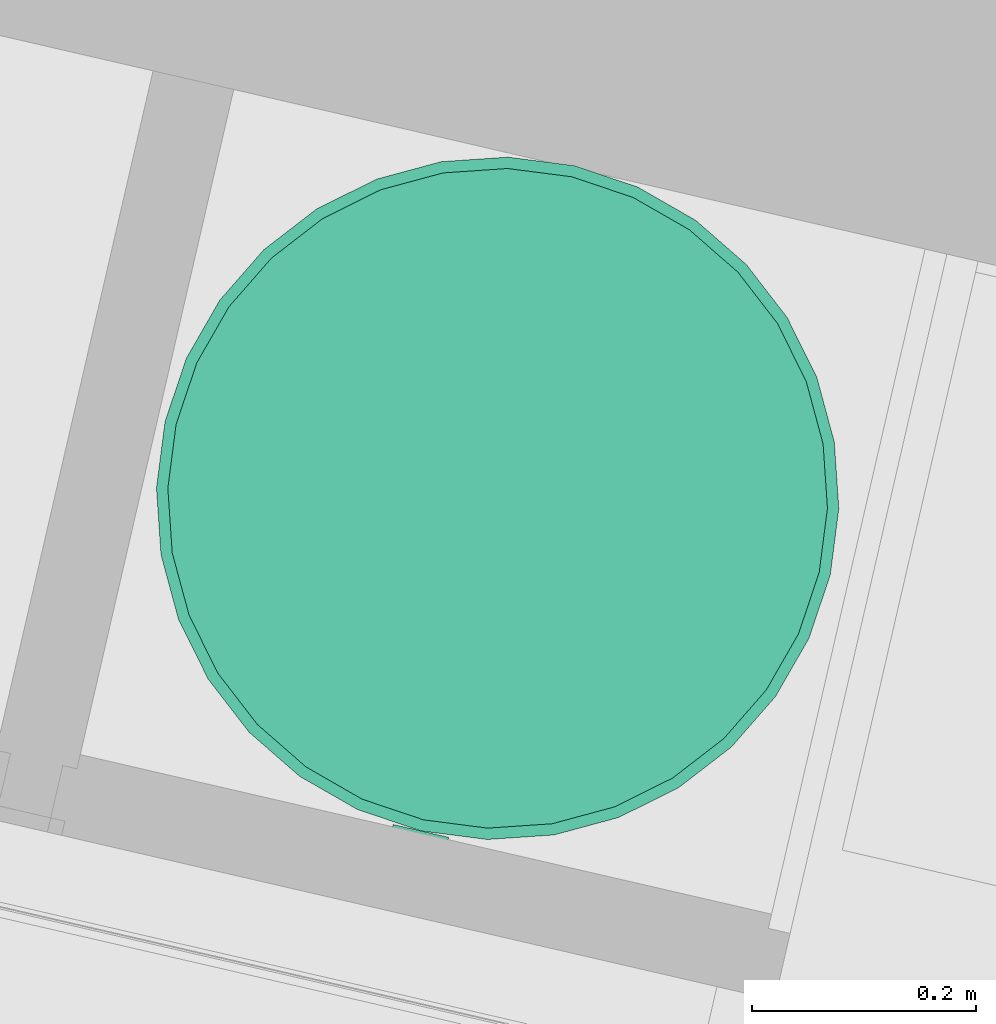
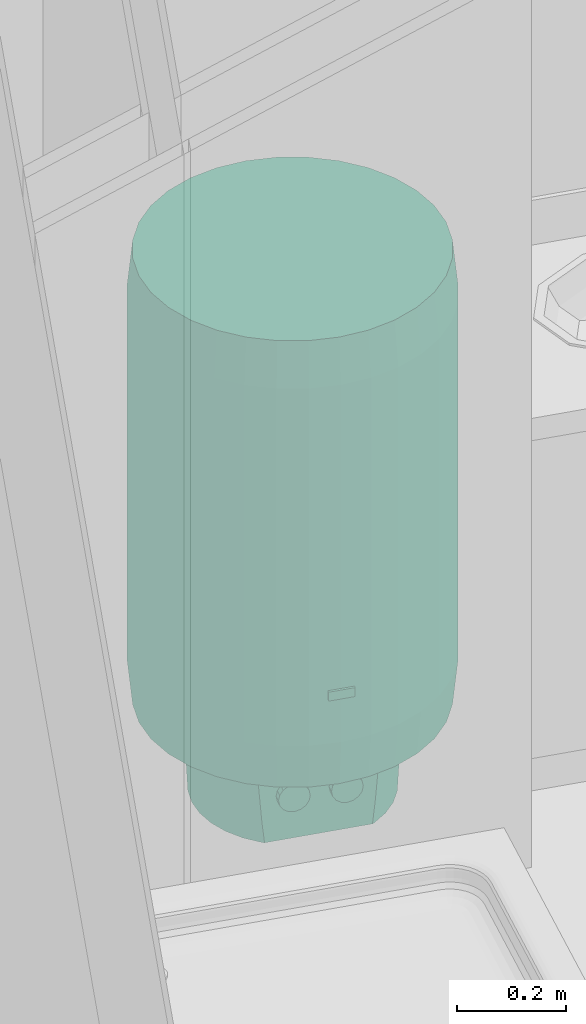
# One storey, part 78 of 91: 1 energy conversion device.
"""IFC2X3 building model written with IfcOpenShell, lengths in metres."""

import ifcopenshell
import ifcopenshell.guid

model = None  # the IFC model being written
_history = None  # IfcOwnerHistory: only IFC2X3 demands one
_inside = {}  # id of a spatial element -> (the spatial element, [elements in it])
_under = {}  # id of a project, library or spatial element -> (it, [spatial elements below it])
_declared = {}  # id of a project -> (the project, [libraries it declares])
_typed = {}  # id of a type object -> (the type object, [elements of that type])
_made_of = {}  # id of a material, layer set ... -> (it, [elements and type objects made of it])


def new_model(schema):
    """Start an empty IFC model of exactly this schema.

    Asked for "IFC4X3", IfcOpenShell would pick the latest addendum, in which some entities
    have other attributes; the version numbers below select the first issue.
    IFC2X3 requires an IfcOwnerHistory on every rooted entity: one is made here for all.
    """
    global model, _history
    if schema == "IFC4X3":
        model = ifcopenshell.file(schema_version=(4, 3, 0, 0))
    else:
        model = ifcopenshell.file(schema=schema)
    _inside.clear()
    _under.clear()
    _declared.clear()
    _typed.clear()
    _made_of.clear()
    _history = None
    if model.schema == "IFC2X3":
        org = make("IfcOrganization", Name="unknown")
        user = make(
            "IfcPersonAndOrganization",
            ThePerson=make("IfcPerson", FamilyName="unknown"),
            TheOrganization=org,
        )
        app = make(
            "IfcApplication",
            ApplicationDeveloper=org,
            Version="unknown",
            ApplicationFullName="unknown",
            ApplicationIdentifier="unknown",
        )
        _history = make(
            "IfcOwnerHistory",
            OwningUser=user,
            OwningApplication=app,
            ChangeAction="ADDED",
            CreationDate=0,
        )
    return model


def make(cls, **values):
    """One entity of the class cls with the attributes given. An attribute that is None is left unset."""
    return model.create_entity(
        cls, **{name: value for name, value in values.items() if value is not None}
    )


def entity(cls, *values):
    """Any entity or typed value of the class cls, its attributes in the order of the schema. None: left unset."""
    e = model.create_entity(cls)
    for i, value in enumerate(values):
        if value is not None:
            e[i] = value
    return e


def rooted(cls, **values):
    """An entity with a GlobalId (a new one), such as an element, a storey or a relation."""
    return make(cls, GlobalId=ifcopenshell.guid.new(), OwnerHistory=_history, **values)


def si_unit(unit_type, name, prefix=None):
    """IfcSIUnit, for example si_unit("LENGTHUNIT", "METRE", prefix="MILLI")."""
    return make("IfcSIUnit", UnitType=unit_type, Prefix=prefix, Name=name)


def converted_unit(unit_type, name, factor, base, dimensions=None, offset=None):
    """IfcConversionBasedUnit, such as the inch: factor (a typed value) times the base unit."""
    return make(
        "IfcConversionBasedUnit"
        if offset is None
        else "IfcConversionBasedUnitWithOffset",
        ConversionOffset=offset,
        Dimensions=None
        if dimensions is None
        else entity("IfcDimensionalExponents", *dimensions),
        UnitType=unit_type,
        Name=name,
        ConversionFactor=make(
            "IfcMeasureWithUnit", ValueComponent=factor, UnitComponent=base
        ),
    )


def derived_unit(unit_type, elements):
    """IfcDerivedUnit: a product of units, each with its exponent."""
    return make(
        "IfcDerivedUnit",
        Elements=[
            make("IfcDerivedUnitElement", Unit=unit, Exponent=power)
            for unit, power in elements
        ],
        UnitType=unit_type,
    )


def money_unit(currency):
    """IfcMonetaryUnit."""
    return make("IfcMonetaryUnit", Currency=currency)


def assignment(units):
    """IfcUnitAssignment: the units of a project."""
    return None if units is None else make("IfcUnitAssignment", Units=units)


def point(xyz):
    """IfcCartesianPoint."""
    return None if xyz is None else make("IfcCartesianPoint", Coordinates=xyz)


def direction(xyz):
    """IfcDirection."""
    return None if xyz is None else make("IfcDirection", DirectionRatios=xyz)


def frame(location, z_axis=None, x_axis=None):
    """IfcAxis2Placement3D, a coordinate frame: its origin and axes. An axis left out is left unset."""
    return make(
        "IfcAxis2Placement3D",
        Location=point(location),
        Axis=direction(z_axis),
        RefDirection=direction(x_axis),
    )


def origin_with_axes():
    """The frame at (0, 0, 0) with the z axis (0, 0, 1) and the x axis (1, 0, 0) written out."""
    return frame((0.0, 0.0, 0.0), z_axis=(0.0, 0.0, 1.0), x_axis=(1.0, 0.0, 0.0))


def place(relative_to, where):
    """IfcLocalPlacement: puts the frame where relative to a parent placement (None: the world)."""
    return make(
        "IfcLocalPlacement", PlacementRelTo=relative_to, RelativePlacement=where
    )


def context(
    kind, dimensions, precision=None, world=None, true_north=None, identifier=None
):
    """IfcGeometricRepresentationContext, for example the 3D "Model" context."""
    return make(
        "IfcGeometricRepresentationContext",
        ContextIdentifier=identifier,
        ContextType=kind,
        CoordinateSpaceDimension=dimensions,
        Precision=precision,
        WorldCoordinateSystem=world,
        TrueNorth=true_north,
    )


def subcontext(parent, identifier, kind, view, scale=None):
    """IfcGeometricRepresentationSubContext, for example "Body" below "Model"."""
    return make(
        "IfcGeometricRepresentationSubContext",
        ContextIdentifier=identifier,
        ContextType=kind,
        ParentContext=parent,
        TargetScale=scale,
        TargetView=view,
    )


def project(units=None, contexts=None):
    """IfcProject with its units and contexts."""
    return rooted(
        "IfcProject",
        Name="project",
        RepresentationContexts=contexts,
        UnitsInContext=assignment(units),
    )


def spatial(cls, under=None, at=None, **own):
    """A site, building, storey or space (cls), placed at a placement, below another one or the project."""
    s = rooted(cls, ObjectPlacement=at, **own)
    if under is not None:
        _under.setdefault(under.id(), (under, []))[1].append(s)
    return s


def faces_of(points, faces, orient=None, outer=None):
    """IfcFace entities. A face is a list of loops; a loop is a list of indices into points, from 0.

    orient and outer hold one flag for each loop. By default every Orientation is true, the
    first loop of a face is its IfcFaceOuterBound and the others are IfcFaceBound.
    """
    made = []
    for i, loops in enumerate(faces):
        bounds = []
        for j, loop in enumerate(loops):
            is_outer = j == 0 if outer is None else outer[i][j]
            bounds.append(
                make(
                    "IfcFaceOuterBound" if is_outer else "IfcFaceBound",
                    Bound=make("IfcPolyLoop", Polygon=[points[k] for k in loop]),
                    Orientation=True if orient is None else orient[i][j],
                )
            )
        made.append(make("IfcFace", Bounds=bounds))
    return made


def faceted_brep(points, faces, orient=None, outer=None, voids=None):
    """IfcFacetedBrep: a solid bounded by flat faces; with voids (closed shells), ...WithVoids."""
    shared = [point(p) for p in points]
    hull = make("IfcClosedShell", CfsFaces=faces_of(shared, faces, orient, outer))
    if voids is None:
        return make("IfcFacetedBrep", Outer=hull)
    return make(
        "IfcFacetedBrepWithVoids",
        Outer=hull,
        Voids=[
            make(cls, CfsFaces=faces_of(shared, fs, o, b)) for cls, fs, o, b in voids
        ],
    )


def shape(context_of_items, identifier, shape_type, items):
    """IfcShapeRepresentation: the items that make up one representation, for example the "Body"."""
    return make(
        "IfcShapeRepresentation",
        ContextOfItems=context_of_items,
        RepresentationIdentifier=identifier,
        RepresentationType=shape_type,
        Items=items,
    )


def source(mapping_origin, context_of_items, identifier, shape_type, items):
    """IfcRepresentationMap: a shape defined once, which mapped items show again and again."""
    return make(
        "IfcRepresentationMap",
        MappingOrigin=mapping_origin,
        MappedRepresentation=shape(context_of_items, identifier, shape_type, items),
    )


def transform(
    local_origin,
    x_axis=None,
    y_axis=None,
    z_axis=None,
    scale=None,
    scale2=None,
    scale3=None,
    uniform=True,
):
    """IfcCartesianTransformationOperator3D, or its non-uniform kind. x_axis, y_axis, z_axis: its Axis1, 2, 3."""
    if uniform:
        return make(
            "IfcCartesianTransformationOperator3D",
            Axis1=direction(x_axis),
            Axis2=direction(y_axis),
            LocalOrigin=point(local_origin),
            Scale=scale,
            Axis3=direction(z_axis),
        )
    return make(
        "IfcCartesianTransformationOperator3DnonUniform",
        Axis1=direction(x_axis),
        Axis2=direction(y_axis),
        LocalOrigin=point(local_origin),
        Scale=scale,
        Axis3=direction(z_axis),
        Scale2=scale2,
        Scale3=scale3,
    )


def mapped(mapping_source, mapping_target):
    """IfcMappedItem: shows the shape of a source again, moved by a transform."""
    return make(
        "IfcMappedItem", MappingSource=mapping_source, MappingTarget=mapping_target
    )


def made_of(thing, what):
    """Note that an element or type object is made of a material, layer set ...; save() writes the relation."""
    if what is not None:
        _made_of.setdefault(what.id(), (what, []))[1].append(thing)
    return thing


def type_object(cls, material=None, **own):
    """A type object (cls), such as IfcWallType, which elements share."""
    return made_of(rooted(cls, **own), material)


def element(
    cls,
    number,
    at=None,
    inside=None,
    cuts=None,
    type_object=None,
    material=None,
    context=None,
    identifier="Body",
    shape_type=None,
    held_by="IfcProductDefinitionShape",
    body=None,
    shapes=None,
    **own,
):
    """One element of the class cls, such as IfcWall. Its Tag is "e" and its number.

    at: its placement. inside: the storey or other place that contains it. cuts: it is an
    opening in that element (IfcRelVoidsElement). A single representation is given by context,
    identifier, shape_type and body (its items); several are given by shapes. held_by: the class
    of the entity that holds the representations. save() writes the other relations.
    """
    e = rooted(cls, Tag="e%d" % number, ObjectPlacement=at, **own)
    if body is not None:
        shapes = [shape(context, identifier, shape_type, body)]
    if shapes is not None:
        e.Representation = make(held_by, Representations=shapes)
    if inside is not None:
        _inside.setdefault(inside.id(), (inside, []))[1].append(e)
    if cuts is not None:
        rooted(
            "IfcRelVoidsElement", RelatingBuildingElement=cuts, RelatedOpeningElement=e
        )
    if type_object is not None:
        _typed.setdefault(type_object.id(), (type_object, []))[1].append(e)
    return made_of(e, material)


def aggregate(whole, parts):
    """IfcRelAggregates: a whole, such as a stair, and the parts it consists of."""
    return rooted("IfcRelAggregates", RelatingObject=whole, RelatedObjects=parts)


def save(model, path):
    """Write the relations noted so far, then the file.

    IfcRelAggregates (storeys below a building ...), IfcRelContainedInSpatialStructure (elements
    in a storey), IfcRelDefinesByType, IfcRelAssociatesMaterial and IfcRelDeclares: one each for
    every whole, place, type object, material and project.
    """
    for whole, parts in _under.values():
        aggregate(whole, parts)
    for where, things in _inside.values():
        rooted(
            "IfcRelContainedInSpatialStructure",
            RelatedElements=things,
            RelatingStructure=where,
        )
    for kind, things in _typed.values():
        rooted("IfcRelDefinesByType", RelatedObjects=things, RelatingType=kind)
    for what, things in _made_of.values():
        rooted("IfcRelAssociatesMaterial", RelatedObjects=things, RelatingMaterial=what)
    for by, libraries in _declared.values():
        rooted("IfcRelDeclares", RelatingContext=by, RelatedDefinitions=libraries)
    model.write(path)


model = new_model("IFC2X3")

# Units and contexts
model_context = context("Model", 3, precision=1e-05, world=origin_with_axes(), true_north=direction((0.0, 1.0)))
body_context = subcontext(model_context, "Body", "Model", "MODEL_VIEW")
ifc_project = project(units=[si_unit("LENGTHUNIT", "METRE"), si_unit("AREAUNIT", "SQUARE_METRE"), si_unit("VOLUMEUNIT", "CUBIC_METRE"), converted_unit("PLANEANGLEUNIT", "DEGREE", entity("IfcPlaneAngleMeasure", 0.0174532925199), si_unit("PLANEANGLEUNIT", "RADIAN"), dimensions=[0, 0, 0, 0, 0, 0, 0]), si_unit("SOLIDANGLEUNIT", "STERADIAN"), money_unit("EUR"), converted_unit("TIMEUNIT", "Year", entity("IfcTimeMeasure", 31556926.0), si_unit("TIMEUNIT", "SECOND"), dimensions=[0, 0, 1, 0, 0, 0, 0]), si_unit("MASSUNIT", "GRAM", prefix="KILO"), si_unit("THERMODYNAMICTEMPERATUREUNIT", "DEGREE_CELSIUS"), si_unit("LUMINOUSINTENSITYUNIT", "LUMEN"), si_unit("ENERGYUNIT", "JOULE", prefix="MEGA"), derived_unit("THERMALCONDUCTANCEUNIT", [(si_unit("POWERUNIT", "WATT"), 1), (si_unit("LENGTHUNIT", "METRE"), -1), (si_unit("THERMODYNAMICTEMPERATUREUNIT", "KELVIN"), -1)]), derived_unit("SPECIFICHEATCAPACITYUNIT", [(si_unit("ENERGYUNIT", "JOULE"), 1), (si_unit("MASSUNIT", "GRAM", prefix="KILO"), -1), (si_unit("THERMODYNAMICTEMPERATUREUNIT", "KELVIN"), -1)]), derived_unit("MASSDENSITYUNIT", [(si_unit("MASSUNIT", "GRAM", prefix="KILO"), 1), (si_unit("VOLUMEUNIT", "CUBIC_METRE"), -1)])], contexts=[model_context])

# Site, building, storey
site_placement = place(None, origin_with_axes())
site = spatial("IfcSite", under=ifc_project, at=site_placement, Name="Site", CompositionType="ELEMENT")
building_placement = place(site_placement, origin_with_axes())
building = spatial("IfcBuilding", under=site, at=building_placement, Name="Bâtiment", CompositionType="ELEMENT")
storey_placement = place(building_placement, frame((0.0, 0.0, 5.44), z_axis=(0.0, 0.0, 1.0), x_axis=(1.0, 0.0, 0.0)))
storey = spatial("IfcBuildingStorey", under=building, at=storey_placement, Name="R+2", CompositionType="ELEMENT", Elevation=5.44)

# Energy conversion device
heat_exchanger_type = type_object("IfcHeatExchangerType", Name="Chauffe-eau électrique 23", PredefinedType="SHELLANDTUBE")
shared_shape = source(origin_with_axes(), body_context, "Body", "Brep", [
    faceted_brep([(-0.0254166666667, -0.310083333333, 0.4), (-0.0254166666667, -0.305, 0.4), (0.0254166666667, -0.305, 0.4), (0.0254166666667, -0.310083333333, 0.4), (-0.0254166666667, -0.310083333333, 0.42), (-0.0254166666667, -0.305, 0.42), (0.0254166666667, -0.305, 0.42), (0.0254166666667, -0.310083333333, 0.42)], [[[0, 1, 2, 3]], [[0, 4, 5, 1]], [[1, 5, 6, 2]], [[2, 6, 7, 3]], [[3, 7, 4, 0]], [[7, 6, 5, 4]]]),
    faceted_brep([(0.0226550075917, -0.162666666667, 0.0883281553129), (0.0203333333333, -0.162666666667, 0.1), (0.0226550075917, -0.162666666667, 0.111671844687), (0.0292665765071, -0.162666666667, 0.121566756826), (0.0391614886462, -0.162666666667, 0.128178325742), (0.0508333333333, -0.162666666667, 0.1305), (0.0625051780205, -0.162666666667, 0.128178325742), (0.0724000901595, -0.162666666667, 0.121566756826), (0.0790116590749, -0.162666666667, 0.111671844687), (0.0813333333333, -0.162666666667, 0.1), (0.0790116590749, -0.162666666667, 0.0883281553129), (0.0724000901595, -0.162666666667, 0.0784332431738), (0.0625051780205, -0.162666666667, 0.0718216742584), (0.0508333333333, -0.162666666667, 0.0695), (0.0391614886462, -0.162666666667, 0.0718216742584), (0.0292665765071, -0.162666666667, 0.0784332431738), (0.0226550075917, -0.177916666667, 0.0883281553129), (0.0203333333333, -0.177916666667, 0.1), (0.0226550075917, -0.177916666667, 0.111671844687), (0.0292665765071, -0.177916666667, 0.121566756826), (0.0391614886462, -0.177916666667, 0.128178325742), (0.0508333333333, -0.177916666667, 0.1305), (0.0625051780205, -0.177916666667, 0.128178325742), (0.0724000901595, -0.177916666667, 0.121566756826), (0.0790116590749, -0.177916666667, 0.111671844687), (0.0813333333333, -0.177916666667, 0.1), (0.0790116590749, -0.177916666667, 0.0883281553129), (0.0724000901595, -0.177916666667, 0.0784332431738), (0.0625051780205, -0.177916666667, 0.0718216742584), (0.0508333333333, -0.177916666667, 0.0695), (0.0391614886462, -0.177916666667, 0.0718216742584), (0.0292665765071, -0.177916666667, 0.0784332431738)], [[[0, 1, 2, 3, 4, 5, 6, 7, 8, 9, 10, 11, 12, 13, 14, 15]], [[0, 16, 17, 1]], [[1, 17, 18, 2]], [[2, 18, 19, 3]], [[3, 19, 20, 4]], [[4, 20, 21, 5]], [[5, 21, 22, 6]], [[6, 22, 23, 7]], [[7, 23, 24, 8]], [[8, 24, 25, 9]], [[9, 25, 26, 10]], [[10, 26, 27, 11]], [[11, 27, 28, 12]], [[12, 28, 29, 13]], [[13, 29, 30, 14]], [[14, 30, 31, 15]], [[15, 31, 16, 0]], [[16, 31, 30, 29, 28, 27, 26, 25, 24, 23, 22, 21, 20, 19, 18, 17]]]),
    faceted_brep([(-0.0790116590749, -0.162666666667, 0.0883281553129), (-0.0813333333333, -0.162666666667, 0.1), (-0.0790116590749, -0.162666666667, 0.111671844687), (-0.0724000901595, -0.162666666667, 0.121566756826), (-0.0625051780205, -0.162666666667, 0.128178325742), (-0.0508333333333, -0.162666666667, 0.1305), (-0.0391614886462, -0.162666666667, 0.128178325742), (-0.0292665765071, -0.162666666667, 0.121566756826), (-0.0226550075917, -0.162666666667, 0.111671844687), (-0.0203333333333, -0.162666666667, 0.1), (-0.0226550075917, -0.162666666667, 0.0883281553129), (-0.0292665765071, -0.162666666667, 0.0784332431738), (-0.0391614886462, -0.162666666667, 0.0718216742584), (-0.0508333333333, -0.162666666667, 0.0695), (-0.0625051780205, -0.162666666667, 0.0718216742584), (-0.0724000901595, -0.162666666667, 0.0784332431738), (-0.0790116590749, -0.177916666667, 0.0883281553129), (-0.0813333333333, -0.177916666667, 0.1), (-0.0790116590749, -0.177916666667, 0.111671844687), (-0.0724000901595, -0.177916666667, 0.121566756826), (-0.0625051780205, -0.177916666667, 0.128178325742), (-0.0508333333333, -0.177916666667, 0.1305), (-0.0391614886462, -0.177916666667, 0.128178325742), (-0.0292665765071, -0.177916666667, 0.121566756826), (-0.0226550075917, -0.177916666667, 0.111671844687), (-0.0203333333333, -0.177916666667, 0.1), (-0.0226550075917, -0.177916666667, 0.0883281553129), (-0.0292665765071, -0.177916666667, 0.0784332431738), (-0.0391614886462, -0.177916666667, 0.0718216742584), (-0.0508333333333, -0.177916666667, 0.0695), (-0.0625051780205, -0.177916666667, 0.0718216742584), (-0.0724000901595, -0.177916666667, 0.0784332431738)], [[[0, 1, 2, 3, 4, 5, 6, 7, 8, 9, 10, 11, 12, 13, 14, 15]], [[0, 16, 17, 1]], [[1, 17, 18, 2]], [[2, 18, 19, 3]], [[3, 19, 20, 4]], [[4, 20, 21, 5]], [[5, 21, 22, 6]], [[6, 22, 23, 7]], [[7, 23, 24, 8]], [[8, 24, 25, 9]], [[9, 25, 26, 10]], [[10, 26, 27, 11]], [[11, 27, 28, 12]], [[12, 28, 29, 13]], [[13, 29, 30, 14]], [[14, 30, 31, 15]], [[15, 31, 16, 0]], [[16, 31, 30, 29, 28, 27, 26, 25, 24, 23, 22, 21, 20, 19, 18, 17]]]),
    faceted_brep([(-0.189455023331, -0.0376849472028, 0.0), (-0.199426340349, -0.0396683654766, 0.2), (-0.203333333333, 0.0, 0.2), (-0.193166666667, 0.0, 0.0), (-0.178462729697, -0.0739216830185, 0.0), (-0.187855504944, -0.0778122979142, 0.2), (-0.169065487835, -0.112965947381, 0.2), (-0.143778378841, -0.143778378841, 0.2), (-0.120762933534, -0.162666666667, 0.2), (0.120762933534, -0.162666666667, 0.2), (0.143778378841, -0.143778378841, 0.2), (0.169065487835, -0.112965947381, 0.2), (0.187855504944, -0.0778122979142, 0.2), (0.199426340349, -0.0396683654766, 0.2), (0.203333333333, 0.0, 0.2), (0.199426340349, 0.0396683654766, 0.2), (0.187855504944, 0.0778122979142, 0.2), (0.169065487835, 0.112965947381, 0.2), (0.143778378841, 0.143778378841, 0.2), (0.112965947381, 0.169065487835, 0.2), (0.0778122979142, 0.187855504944, 0.2), (0.0396683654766, 0.199426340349, 0.2), (0.0, 0.203333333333, 0.2), (-0.0396683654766, 0.199426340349, 0.2), (-0.0778122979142, 0.187855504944, 0.2), (-0.112965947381, 0.169065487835, 0.2), (-0.143778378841, 0.143778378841, 0.2), (-0.169065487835, 0.112965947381, 0.2), (-0.187855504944, 0.0778122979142, 0.2), (-0.199426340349, 0.0396683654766, 0.2), (-0.189455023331, 0.0376849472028, 0.0), (-0.178462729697, 0.0739216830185, 0.0), (-0.160612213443, 0.107317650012, 0.0), (-0.136589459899, 0.136589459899, 0.0), (-0.107317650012, 0.160612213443, 0.0), (-0.0739216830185, 0.178462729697, 0.0), (-0.0376849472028, 0.189455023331, 0.0), (0.0, 0.193166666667, 0.0), (0.0376849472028, 0.189455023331, 0.0), (0.0739216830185, 0.178462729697, 0.0), (0.107317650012, 0.160612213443, 0.0), (0.136589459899, 0.136589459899, 0.0), (0.160612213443, 0.107317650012, 0.0), (0.178462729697, 0.0739216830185, 0.0), (0.189455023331, 0.0376849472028, 0.0), (0.193166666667, 0.0, 0.0), (0.189455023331, -0.0376849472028, 0.0), (0.178462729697, -0.0739216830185, 0.0), (0.160612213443, -0.107317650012, 0.0), (0.136589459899, -0.136589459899, 0.0), (0.107317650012, -0.160612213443, 0.0), (0.103474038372, -0.162666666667, 0.0), (-0.103474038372, -0.162666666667, 0.0), (-0.107317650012, -0.160612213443, 0.0), (-0.136589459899, -0.136589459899, 0.0), (-0.160612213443, -0.107317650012, 0.0), (-0.108690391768, -0.162666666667, 0.0486072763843), (0.108690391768, -0.162666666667, 0.0486072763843)], [[[0, 1, 2, 3]], [[4, 5, 1, 0]], [[1, 5, 6, 7, 8, 9, 10, 11, 12, 13, 14, 15, 16, 17, 18, 19, 20, 21, 22, 23, 24, 25, 26, 27, 28, 29, 2]], [[3, 2, 29, 30]], [[0, 3, 30, 31, 32, 33, 34, 35, 36, 37, 38, 39, 40, 41, 42, 43, 44, 45, 46, 47, 48, 49, 50, 51, 52, 53, 54, 55, 4]], [[55, 6, 5, 4]], [[54, 7, 6, 55]], [[53, 56, 8, 7, 54]], [[51, 57, 9, 8, 56, 52]], [[49, 10, 9, 57, 50]], [[48, 11, 10, 49]], [[47, 12, 11, 48]], [[46, 13, 12, 47]], [[45, 14, 13, 46]], [[44, 15, 14, 45]], [[43, 16, 15, 44]], [[42, 17, 16, 43]], [[41, 18, 17, 42]], [[40, 19, 18, 41]], [[39, 20, 19, 40]], [[38, 21, 20, 39]], [[37, 22, 21, 38]], [[36, 23, 22, 37]], [[35, 24, 23, 36]], [[34, 25, 24, 35]], [[33, 26, 25, 34]], [[32, 27, 26, 33]], [[31, 28, 27, 32]], [[30, 29, 28, 31]], [[50, 57, 51]], [[52, 56, 53]]]),
    faceted_brep([(-0.289168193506, -0.0575191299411, 0.2), (-0.299139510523, -0.0595025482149, 0.3), (-0.305, 0.0, 0.3), (-0.294833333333, 0.0, 0.2), (-0.272390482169, -0.112827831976, 0.2), (-0.281783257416, -0.116718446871, 0.3), (-0.253598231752, -0.169448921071, 0.3), (-0.215667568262, -0.215667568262, 0.3), (-0.169448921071, -0.253598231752, 0.3), (-0.116718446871, -0.281783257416, 0.3), (-0.0595025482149, -0.299139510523, 0.3), (0.0, -0.305, 0.3), (0.0595025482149, -0.299139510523, 0.3), (0.116718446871, -0.281783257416, 0.3), (0.169448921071, -0.253598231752, 0.3), (0.215667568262, -0.215667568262, 0.3), (0.253598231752, -0.169448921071, 0.3), (0.281783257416, -0.116718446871, 0.3), (0.299139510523, -0.0595025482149, 0.3), (0.305, 0.0, 0.3), (0.299139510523, 0.0595025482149, 0.3), (0.281783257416, 0.116718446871, 0.3), (0.253598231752, 0.169448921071, 0.3), (0.215667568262, 0.215667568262, 0.3), (0.169448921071, 0.253598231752, 0.3), (0.116718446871, 0.281783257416, 0.3), (0.0595025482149, 0.299139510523, 0.3), (0.0, 0.305, 0.3), (-0.0595025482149, 0.299139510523, 0.3), (-0.116718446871, 0.281783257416, 0.3), (-0.169448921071, 0.253598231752, 0.3), (-0.215667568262, 0.215667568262, 0.3), (-0.253598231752, 0.169448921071, 0.3), (-0.281783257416, 0.116718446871, 0.3), (-0.299139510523, 0.0595025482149, 0.3), (-0.289168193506, 0.0575191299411, 0.2), (-0.272390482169, 0.112827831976, 0.2), (-0.245144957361, 0.163800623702, 0.2), (-0.20847864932, 0.20847864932, 0.2), (-0.163800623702, 0.245144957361, 0.2), (-0.112827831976, 0.272390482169, 0.2), (-0.0575191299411, 0.289168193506, 0.2), (0.0, 0.294833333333, 0.2), (0.0575191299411, 0.289168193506, 0.2), (0.112827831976, 0.272390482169, 0.2), (0.163800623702, 0.245144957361, 0.2), (0.20847864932, 0.20847864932, 0.2), (0.245144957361, 0.163800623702, 0.2), (0.272390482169, 0.112827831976, 0.2), (0.289168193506, 0.0575191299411, 0.2), (0.294833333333, 0.0, 0.2), (0.289168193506, -0.0575191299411, 0.2), (0.272390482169, -0.112827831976, 0.2), (0.245144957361, -0.163800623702, 0.2), (0.20847864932, -0.20847864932, 0.2), (0.163800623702, -0.245144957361, 0.2), (0.112827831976, -0.272390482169, 0.2), (0.0575191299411, -0.289168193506, 0.2), (0.0, -0.294833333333, 0.2), (-0.0575191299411, -0.289168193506, 0.2), (-0.112827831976, -0.272390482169, 0.2), (-0.163800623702, -0.245144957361, 0.2), (-0.20847864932, -0.20847864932, 0.2), (-0.245144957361, -0.163800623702, 0.2)], [[[0, 1, 2, 3]], [[4, 5, 1, 0]], [[1, 5, 6, 7, 8, 9, 10, 11, 12, 13, 14, 15, 16, 17, 18, 19, 20, 21, 22, 23, 24, 25, 26, 27, 28, 29, 30, 31, 32, 33, 34, 2]], [[3, 2, 34, 35]], [[0, 3, 35, 36, 37, 38, 39, 40, 41, 42, 43, 44, 45, 46, 47, 48, 49, 50, 51, 52, 53, 54, 55, 56, 57, 58, 59, 60, 61, 62, 63, 4]], [[63, 6, 5, 4]], [[62, 7, 6, 63]], [[61, 8, 7, 62]], [[60, 9, 8, 61]], [[59, 10, 9, 60]], [[58, 11, 10, 59]], [[57, 12, 11, 58]], [[56, 13, 12, 57]], [[55, 14, 13, 56]], [[54, 15, 14, 55]], [[53, 16, 15, 54]], [[52, 17, 16, 53]], [[51, 18, 17, 52]], [[50, 19, 18, 51]], [[49, 20, 19, 50]], [[48, 21, 20, 49]], [[47, 22, 21, 48]], [[46, 23, 22, 47]], [[45, 24, 23, 46]], [[44, 25, 24, 45]], [[43, 26, 25, 44]], [[42, 27, 26, 43]], [[41, 28, 27, 42]], [[40, 29, 28, 41]], [[39, 30, 29, 40]], [[38, 31, 30, 39]], [[37, 32, 31, 38]], [[36, 33, 32, 37]], [[35, 34, 33, 36]]]),
    faceted_brep([(-0.299139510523, -0.0595025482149, 0.3), (-0.305, 0.0, 0.3), (-0.299139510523, 0.0595025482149, 0.3), (-0.281783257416, 0.116718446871, 0.3), (-0.253598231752, 0.169448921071, 0.3), (-0.215667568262, 0.215667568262, 0.3), (-0.169448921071, 0.253598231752, 0.3), (-0.116718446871, 0.281783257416, 0.3), (-0.0595025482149, 0.299139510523, 0.3), (0.0, 0.305, 0.3), (0.0595025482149, 0.299139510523, 0.3), (0.116718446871, 0.281783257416, 0.3), (0.169448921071, 0.253598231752, 0.3), (0.215667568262, 0.215667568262, 0.3), (0.253598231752, 0.169448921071, 0.3), (0.281783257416, 0.116718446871, 0.3), (0.299139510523, 0.0595025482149, 0.3), (0.305, 0.0, 0.3), (0.299139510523, -0.0595025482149, 0.3), (0.281783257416, -0.116718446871, 0.3), (0.253598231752, -0.169448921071, 0.3), (0.215667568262, -0.215667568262, 0.3), (0.169448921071, -0.253598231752, 0.3), (0.116718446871, -0.281783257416, 0.3), (0.0595025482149, -0.299139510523, 0.3), (0.0, -0.305, 0.3), (-0.0595025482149, -0.299139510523, 0.3), (-0.116718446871, -0.281783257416, 0.3), (-0.169448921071, -0.253598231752, 0.3), (-0.215667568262, -0.215667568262, 0.3), (-0.253598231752, -0.169448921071, 0.3), (-0.281783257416, -0.116718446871, 0.3), (-0.299139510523, -0.0595025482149, 1.1), (-0.305, 0.0, 1.1), (-0.299139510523, 0.0595025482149, 1.1), (-0.281783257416, 0.116718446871, 1.1), (-0.253598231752, 0.169448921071, 1.1), (-0.215667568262, 0.215667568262, 1.1), (-0.169448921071, 0.253598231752, 1.1), (-0.116718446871, 0.281783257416, 1.1), (-0.0595025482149, 0.299139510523, 1.1), (0.0, 0.305, 1.1), (0.0595025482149, 0.299139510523, 1.1), (0.116718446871, 0.281783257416, 1.1), (0.169448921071, 0.253598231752, 1.1), (0.215667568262, 0.215667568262, 1.1), (0.253598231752, 0.169448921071, 1.1), (0.281783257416, 0.116718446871, 1.1), (0.299139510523, 0.0595025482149, 1.1), (0.305, 0.0, 1.1), (0.299139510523, -0.0595025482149, 1.1), (0.281783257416, -0.116718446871, 1.1), (0.253598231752, -0.169448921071, 1.1), (0.215667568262, -0.215667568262, 1.1), (0.169448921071, -0.253598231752, 1.1), (0.116718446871, -0.281783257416, 1.1), (0.0595025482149, -0.299139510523, 1.1), (0.0, -0.305, 1.1), (-0.0595025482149, -0.299139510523, 1.1), (-0.116718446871, -0.281783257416, 1.1), (-0.169448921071, -0.253598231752, 1.1), (-0.215667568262, -0.215667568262, 1.1), (-0.253598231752, -0.169448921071, 1.1), (-0.281783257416, -0.116718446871, 1.1)], [[[0, 1, 2, 3, 4, 5, 6, 7, 8, 9, 10, 11, 12, 13, 14, 15, 16, 17, 18, 19, 20, 21, 22, 23, 24, 25, 26, 27, 28, 29, 30, 31]], [[0, 32, 33, 1]], [[1, 33, 34, 2]], [[2, 34, 35, 3]], [[3, 35, 36, 4]], [[4, 36, 37, 5]], [[5, 37, 38, 6]], [[6, 38, 39, 7]], [[7, 39, 40, 8]], [[8, 40, 41, 9]], [[9, 41, 42, 10]], [[10, 42, 43, 11]], [[11, 43, 44, 12]], [[12, 44, 45, 13]], [[13, 45, 46, 14]], [[14, 46, 47, 15]], [[15, 47, 48, 16]], [[16, 48, 49, 17]], [[17, 49, 50, 18]], [[18, 50, 51, 19]], [[19, 51, 52, 20]], [[20, 52, 53, 21]], [[21, 53, 54, 22]], [[22, 54, 55, 23]], [[23, 55, 56, 24]], [[24, 56, 57, 25]], [[25, 57, 58, 26]], [[26, 58, 59, 27]], [[27, 59, 60, 28]], [[28, 60, 61, 29]], [[29, 61, 62, 30]], [[30, 62, 63, 31]], [[31, 63, 32, 0]], [[32, 63, 62, 61, 60, 59, 58, 57, 56, 55, 54, 53, 52, 51, 50, 49, 48, 47, 46, 45, 44, 43, 42, 41, 40, 39, 38, 37, 36, 35, 34, 33]]]),
    faceted_brep([(-0.299139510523, -0.0595025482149, 1.1), (-0.289168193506, -0.0575191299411, 1.2), (-0.294833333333, 0.0, 1.2), (-0.305, 0.0, 1.1), (-0.281783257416, -0.116718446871, 1.1), (-0.272390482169, -0.112827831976, 1.2), (-0.245144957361, -0.163800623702, 1.2), (-0.20847864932, -0.20847864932, 1.2), (-0.163800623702, -0.245144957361, 1.2), (-0.112827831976, -0.272390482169, 1.2), (-0.0575191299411, -0.289168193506, 1.2), (0.0, -0.294833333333, 1.2), (0.0575191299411, -0.289168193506, 1.2), (0.112827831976, -0.272390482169, 1.2), (0.163800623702, -0.245144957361, 1.2), (0.20847864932, -0.20847864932, 1.2), (0.245144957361, -0.163800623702, 1.2), (0.272390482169, -0.112827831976, 1.2), (0.289168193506, -0.0575191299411, 1.2), (0.294833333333, 0.0, 1.2), (0.289168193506, 0.0575191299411, 1.2), (0.272390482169, 0.112827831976, 1.2), (0.245144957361, 0.163800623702, 1.2), (0.20847864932, 0.20847864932, 1.2), (0.163800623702, 0.245144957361, 1.2), (0.112827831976, 0.272390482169, 1.2), (0.0575191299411, 0.289168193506, 1.2), (0.0, 0.294833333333, 1.2), (-0.0575191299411, 0.289168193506, 1.2), (-0.112827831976, 0.272390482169, 1.2), (-0.163800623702, 0.245144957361, 1.2), (-0.20847864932, 0.20847864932, 1.2), (-0.245144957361, 0.163800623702, 1.2), (-0.272390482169, 0.112827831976, 1.2), (-0.289168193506, 0.0575191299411, 1.2), (-0.299139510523, 0.0595025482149, 1.1), (-0.281783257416, 0.116718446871, 1.1), (-0.253598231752, 0.169448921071, 1.1), (-0.215667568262, 0.215667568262, 1.1), (-0.169448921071, 0.253598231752, 1.1), (-0.116718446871, 0.281783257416, 1.1), (-0.0595025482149, 0.299139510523, 1.1), (0.0, 0.305, 1.1), (0.0595025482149, 0.299139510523, 1.1), (0.116718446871, 0.281783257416, 1.1), (0.169448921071, 0.253598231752, 1.1), (0.215667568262, 0.215667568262, 1.1), (0.253598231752, 0.169448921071, 1.1), (0.281783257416, 0.116718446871, 1.1), (0.299139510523, 0.0595025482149, 1.1), (0.305, 0.0, 1.1), (0.299139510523, -0.0595025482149, 1.1), (0.281783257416, -0.116718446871, 1.1), (0.253598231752, -0.169448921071, 1.1), (0.215667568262, -0.215667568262, 1.1), (0.169448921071, -0.253598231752, 1.1), (0.116718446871, -0.281783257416, 1.1), (0.0595025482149, -0.299139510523, 1.1), (0.0, -0.305, 1.1), (-0.0595025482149, -0.299139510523, 1.1), (-0.116718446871, -0.281783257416, 1.1), (-0.169448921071, -0.253598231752, 1.1), (-0.215667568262, -0.215667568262, 1.1), (-0.253598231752, -0.169448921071, 1.1)], [[[0, 1, 2, 3]], [[4, 5, 1, 0]], [[1, 5, 6, 7, 8, 9, 10, 11, 12, 13, 14, 15, 16, 17, 18, 19, 20, 21, 22, 23, 24, 25, 26, 27, 28, 29, 30, 31, 32, 33, 34, 2]], [[3, 2, 34, 35]], [[0, 3, 35, 36, 37, 38, 39, 40, 41, 42, 43, 44, 45, 46, 47, 48, 49, 50, 51, 52, 53, 54, 55, 56, 57, 58, 59, 60, 61, 62, 63, 4]], [[63, 6, 5, 4]], [[62, 7, 6, 63]], [[61, 8, 7, 62]], [[60, 9, 8, 61]], [[59, 10, 9, 60]], [[58, 11, 10, 59]], [[57, 12, 11, 58]], [[56, 13, 12, 57]], [[55, 14, 13, 56]], [[54, 15, 14, 55]], [[53, 16, 15, 54]], [[52, 17, 16, 53]], [[51, 18, 17, 52]], [[50, 19, 18, 51]], [[49, 20, 19, 50]], [[48, 21, 20, 49]], [[47, 22, 21, 48]], [[46, 23, 22, 47]], [[45, 24, 23, 46]], [[44, 25, 24, 45]], [[43, 26, 25, 44]], [[42, 27, 26, 43]], [[41, 28, 27, 42]], [[40, 29, 28, 41]], [[39, 30, 29, 40]], [[38, 31, 30, 39]], [[37, 32, 31, 38]], [[36, 33, 32, 37]], [[35, 34, 33, 36]]]),
])
energy_conversion_device_placement = place(storey_placement, frame((-10.1015578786, 11.5785123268, 0.0), z_axis=(0.0, 0.0, 1.0), x_axis=(0.974387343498, -0.224876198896, 0.0)))
element("IfcEnergyConversionDevice", 1, at=energy_conversion_device_placement, inside=storey, type_object=heat_exchanger_type, Name="MOB-002", context=body_context, shape_type="MappedRepresentation", body=[
    mapped(shared_shape, transform((0.0, 0.0, 0.0))),
])

save(model, "model.ifc")
